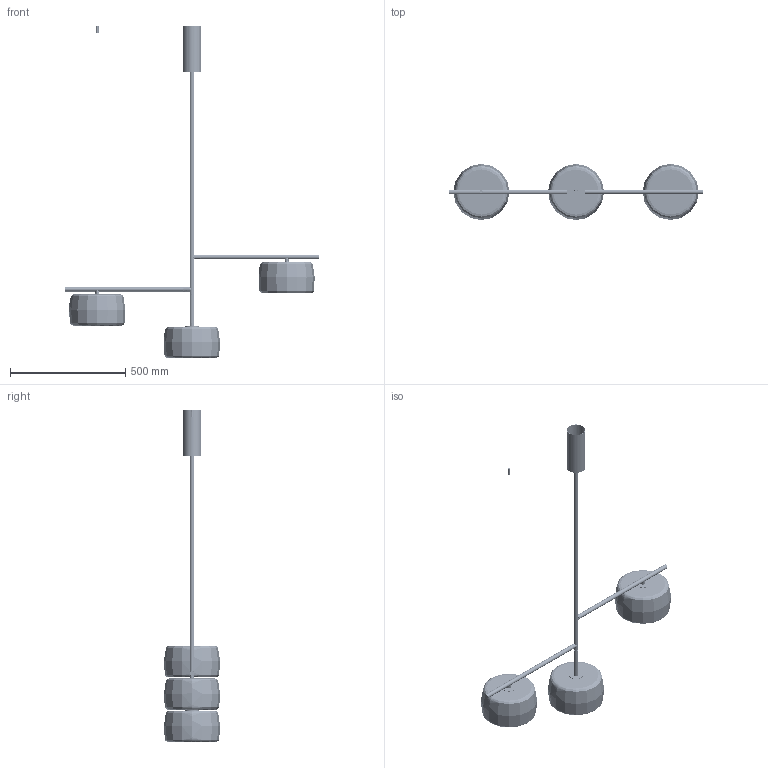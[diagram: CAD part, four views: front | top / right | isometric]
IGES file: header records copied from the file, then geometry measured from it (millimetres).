
Start section: SolidWorks IGES file using analytic representation for surfaces SolidWorks IGES file using analytic representation for surfaces SolidWorks IGES file using analytic representation for surfaces SolidWorks IGES file using analytic representation for surfaces SolidWorks IGES file using analytic representation for surfaces SolidWorks IGES file using analytic representation for surfaces SolidWorks IGES 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
Global section: file name: C:\Users\Nacho\Desktop\Aromas 2026\Seleccionados Aromas 2026\Manises Colgante triple.igs; native system: Rhinoceros ( Nov 12 2024 ); preprocessor: Trout Lake IGES 012 Nov 12 2024; date: 260519.112940; units: millimetre
Bounding box: 1100 x 243.28 x 1437.7 mm (x, y, z)
Surface area: 1503420.6 mm2 (no closed solid volume)
Topology: 0 solids, 0 shells, 1958 faces, 11263 edges, 10779 vertices
Faces by surface type: bspline 1958
